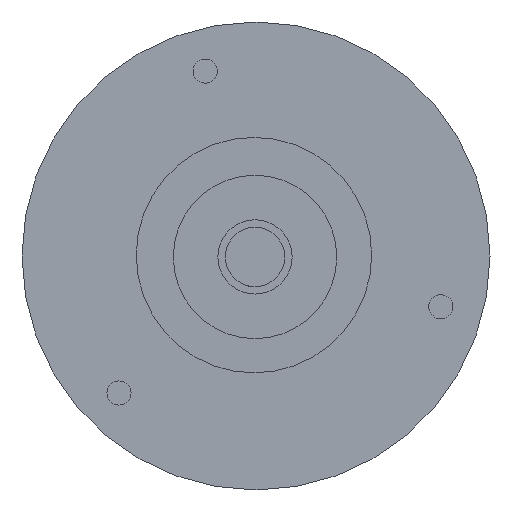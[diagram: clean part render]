
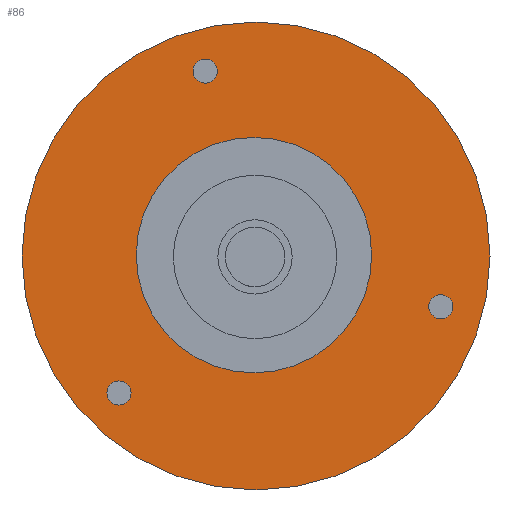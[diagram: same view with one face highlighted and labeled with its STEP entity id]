
A CAD part, front view. The second image highlights one B-rep face of the part: STEP entity #86.
In plain terms, the highlighted planar face has unit normal (0, -1, 0).
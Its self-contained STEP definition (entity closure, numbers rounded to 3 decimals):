
#86 = ADVANCED_FACE( '', ( #188, #189, #190, #191, #192 ), #193, .F. );
#188 = FACE_BOUND( '', #291, .T. );
#189 = FACE_BOUND( '', #292, .T. );
#190 = FACE_BOUND( '', #293, .T. );
#191 = FACE_BOUND( '', #294, .T. );
#192 = FACE_OUTER_BOUND( '', #295, .T. );
#193 = PLANE( '', #296 );
#291 = EDGE_LOOP( '', ( #426 ) );
#292 = EDGE_LOOP( '', ( #427 ) );
#293 = EDGE_LOOP( '', ( #428 ) );
#294 = EDGE_LOOP( '', ( #429 ) );
#295 = EDGE_LOOP( '', ( #430 ) );
#296 = AXIS2_PLACEMENT_3D( '', #431, #432, #433 );
#426 = ORIENTED_EDGE( '', *, *, #489, .T. );
#427 = ORIENTED_EDGE( '', *, *, #472, .T. );
#428 = ORIENTED_EDGE( '', *, *, #483, .T. );
#429 = ORIENTED_EDGE( '', *, *, #493, .T. );
#430 = ORIENTED_EDGE( '', *, *, #467, .F. );
#431 = CARTESIAN_POINT( '', ( 0.126, 0., 1.05 ) );
#432 = DIRECTION( '', ( 0., 1., 0. ) );
#433 = DIRECTION( '', ( 0., 0., 1. ) );
#467 = EDGE_CURVE( '', #522, #522, #523, .T. );
#472 = EDGE_CURVE( '', #530, #530, #531, .T. );
#483 = EDGE_CURVE( '', #548, #548, #549, .T. );
#489 = EDGE_CURVE( '', #556, #556, #557, .T. );
#493 = EDGE_CURVE( '', #562, #562, #563, .T. );
#522 = VERTEX_POINT( '', #594 );
#523 = CIRCLE( '', #595, 31.5 );
#530 = VERTEX_POINT( '', #602 );
#531 = CIRCLE( '', #603, 1.621 );
#548 = VERTEX_POINT( '', #682 );
#549 = CIRCLE( '', #683, 1.621 );
#556 = VERTEX_POINT( '', #690 );
#557 = CIRCLE( '', #691, 1.621 );
#562 = VERTEX_POINT( '', #696 );
#563 = CIRCLE( '', #697, 15.85 );
#594 = CARTESIAN_POINT( '', ( 31.626, 0., 1.05 ) );
#595 = AXIS2_PLACEMENT_3D( '', #731, #732, #733 );
#602 = CARTESIAN_POINT( '', ( -18.321, 0., -19.011 ) );
#603 = AXIS2_PLACEMENT_3D( '', #740, #741, #742 );
#682 = CARTESIAN_POINT( '', ( -6.711, 0., 24.32 ) );
#683 = AXIS2_PLACEMENT_3D( '', #755, #756, #757 );
#690 = CARTESIAN_POINT( '', ( 25.01, 0., -7.401 ) );
#691 = AXIS2_PLACEMENT_3D( '', #761, #762, #763 );
#696 = CARTESIAN_POINT( '', ( 15.702, 0., 1.168 ) );
#697 = AXIS2_PLACEMENT_3D( '', #767, #768, #769 );
#731 = CARTESIAN_POINT( '', ( 0.126, 0., 1.05 ) );
#732 = DIRECTION( '', ( 0., 1., 0. ) );
#733 = DIRECTION( '', ( 1., 0., 0. ) );
#740 = CARTESIAN_POINT( '', ( -18.321, 0., -17.39 ) );
#741 = DIRECTION( '', ( 0., 1., 0. ) );
#742 = DIRECTION( '', ( 0., 0., -1. ) );
#755 = CARTESIAN_POINT( '', ( -6.711, 0., 25.941 ) );
#756 = DIRECTION( '', ( 0., 1., 0. ) );
#757 = DIRECTION( '', ( 0., 0., -1. ) );
#761 = CARTESIAN_POINT( '', ( 25.01, 0., -5.78 ) );
#762 = DIRECTION( '', ( 0., 1., 0. ) );
#763 = DIRECTION( '', ( 0., 0., -1. ) );
#767 = CARTESIAN_POINT( '', ( -0.148, 0., 1.168 ) );
#768 = DIRECTION( '', ( 0., 1., 0. ) );
#769 = DIRECTION( '', ( 1., 0., 0. ) );
